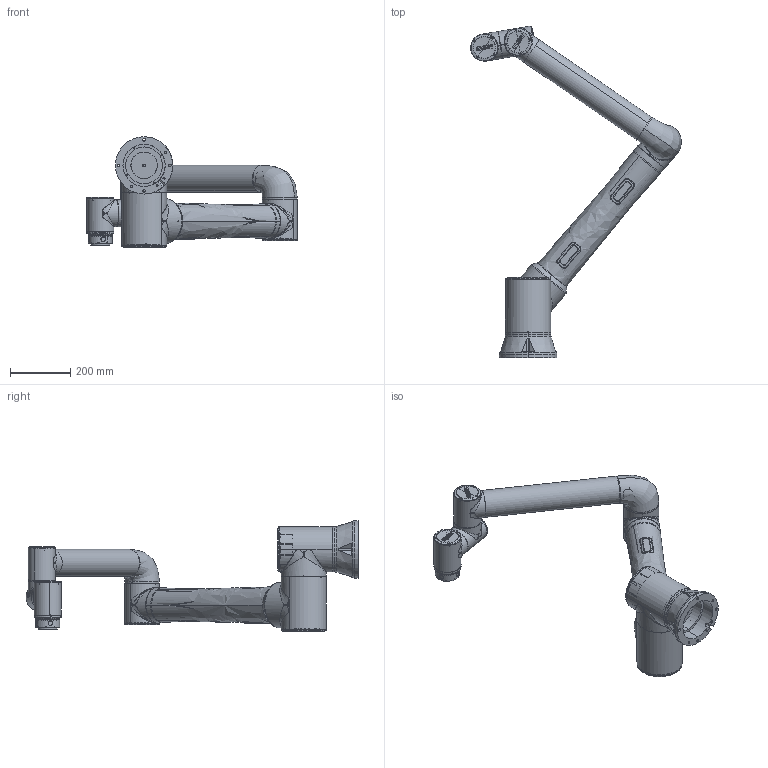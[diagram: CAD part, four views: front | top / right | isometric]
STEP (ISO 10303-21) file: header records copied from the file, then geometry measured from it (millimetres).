
FILE_DESCRIPTION (( 'STEP AP214' ), '1' );
FILE_NAME ('S1400Íâ·¢Ä£ÐÍV3.0 20240513.STEP', '2024-05-13T01:53:49', ( '' ), ( '' ), 'SwSTEP 2.0', 'SolidWorks 2022', '' );
FILE_SCHEMA (( 'AUTOMOTIVE_DESIGN' ));
Length unit declared in the file: millimetre
Products named in the file (7): S1400-1; S1400-2_默认<按加工>; S1400-4_默认<按加工>; S1400-5_默认<按加工>; S1400-3_默认<按加工>; S1400-6; S1400俋楷耀倰V3.0 20240513
Assembly tree (7 placements, depth 2):
  S1400俋楷耀倰V3.0 20240513
    S1400-1
    S1400-2_默认<按加工>
    S1400-3_默认<按加工>
    S1400-4_默认<按加工>
    S1400-5_默认<按加工>  x2
    S1400-6
Bounding box: 698.22 x 1101.07 x 366.69 mm (x, y, z)
Volume: 22164004.5 mm3; surface area: 1235060.1 mm2
Topology: 37 solids, 75 shells, 3055 faces, 7595 edges, 4792 vertices
Faces by surface type: bspline 1094, plane 761, cylinder 715, cone 260, sphere 128, torus 97
Entity records: 230078 total; most frequent: CARTESIAN_POINT 160492, ORIENTED_EDGE 13482, DIRECTION 9272, EDGE_CURVE 6741, VERTEX_POINT 4280, AXIS2_PLACEMENT_3D 3704, EDGE_LOOP 2981, B_SPLINE_CURVE_WITH_KNOTS 2781
